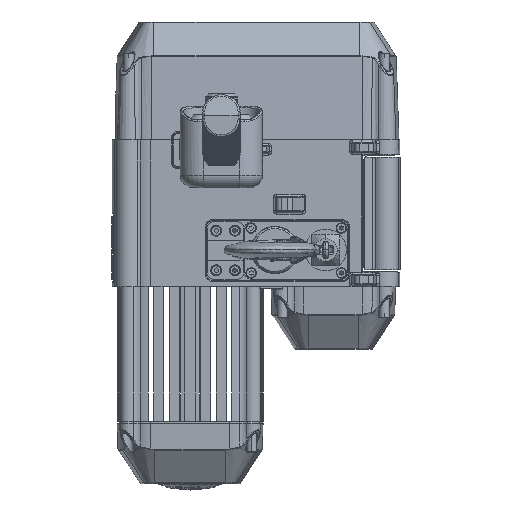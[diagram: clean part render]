
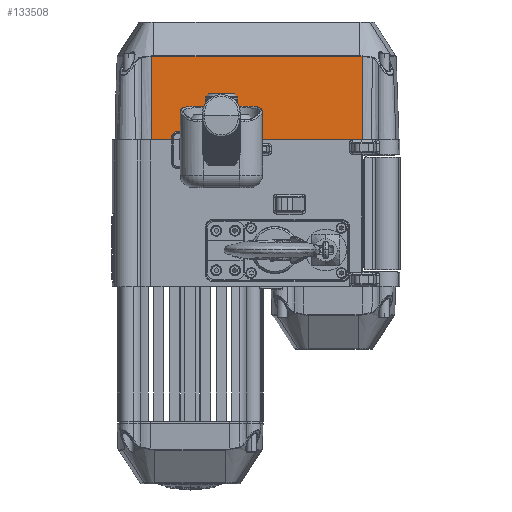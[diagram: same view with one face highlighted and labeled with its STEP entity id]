
A CAD part, front view. The second image highlights one B-rep face of the part: STEP entity #133508.
In plain terms, the highlighted planar face has unit normal (0, -0.999, 0.035).
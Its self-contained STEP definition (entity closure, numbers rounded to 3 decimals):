
#46259 = PLANE ( 'NONE',  #144892 ) ;
#46260 = CARTESIAN_POINT ( 'NONE',  ( -37.2, -73., 103.5 ) ) ;
#46261 = DIRECTION ( 'NONE',  ( 0., -0.999, 0.035 ) ) ;
#46262 = DIRECTION ( 'NONE',  ( 0., -0.035, -0.999 ) ) ;
#48190 = DIRECTION ( 'NONE',  ( -1., 0., 0. ) ) ;
#48202 = CARTESIAN_POINT ( 'NONE',  ( -37.2, -72.93, 105.5 ) ) ;
#48223 = CARTESIAN_POINT ( 'NONE',  ( -37.2, -73., 103.5 ) ) ;
#48226 = DIRECTION ( 'NONE',  ( 0., -0.035, -0.999 ) ) ;
#48231 = DIRECTION ( 'NONE',  ( -1., 0., 0. ) ) ;
#48234 = DIRECTION ( 'NONE',  ( 0., -0.035, -0.999 ) ) ;
#48237 = CARTESIAN_POINT ( 'NONE',  ( -37.2, -72.93, 105.5 ) ) ;
#48241 = CARTESIAN_POINT ( 'NONE',  ( 164.8, -73., 103.5 ) ) ;
#48253 = CARTESIAN_POINT ( 'NONE',  ( 42.3, -72.86, 107.498 ) ) ;
#48258 = DIRECTION ( 'NONE',  ( 0., 0.999, -0.035 ) ) ;
#48261 = DIRECTION ( 'NONE',  ( 0., -0.035, -0.999 ) ) ;
#48295 = DIRECTION ( 'NONE',  ( 0., 0.999, -0.035 ) ) ;
#48299 = CARTESIAN_POINT ( 'NONE',  ( -11.7, -72.86, 107.498 ) ) ;
#48315 = DIRECTION ( 'NONE',  ( 0., -0.035, -0.999 ) ) ;
#48329 = DIRECTION ( 'NONE',  ( 1., 0., 0. ) ) ;
#48335 = CARTESIAN_POINT ( 'NONE',  ( 42.3, -72.651, 113.494 ) ) ;
#48426 = DIRECTION ( 'NONE',  ( 0., -0.035, -0.999 ) ) ;
#48450 = CARTESIAN_POINT ( 'NONE',  ( 48.3, -72.93, 105.5 ) ) ;
#48638 = DIRECTION ( 'NONE',  ( 0., 0.035, 0.999 ) ) ;
#48643 = CARTESIAN_POINT ( 'NONE',  ( -17.7, -72.86, 107.498 ) ) ;
#48783 = CARTESIAN_POINT ( 'NONE',  ( 164.8, -70.136, 185.505 ) ) ;
#48953 = CARTESIAN_POINT ( 'NONE',  ( 163.965, -70.132, 185.618 ) ) ;
#48957 = CARTESIAN_POINT ( 'NONE',  ( 163.127, -70.13, 185.675 ) ) ;
#49035 = CARTESIAN_POINT ( 'NONE',  ( 162.284, -70.13, 185.675 ) ) ;
#50006 = CARTESIAN_POINT ( 'NONE',  ( -34.684, -70.13, 185.675 ) ) ;
#50010 = DIRECTION ( 'NONE',  ( -1., 0., 0. ) ) ;
#51011 = CARTESIAN_POINT ( 'NONE',  ( -34.684, -70.13, 185.675 ) ) ;
#51019 = CARTESIAN_POINT ( 'NONE',  ( -37.2, -70.136, 185.505 ) ) ;
#51022 = CARTESIAN_POINT ( 'NONE',  ( -36.365, -70.132, 185.618 ) ) ;
#51030 = CARTESIAN_POINT ( 'NONE',  ( -35.527, -70.13, 185.675 ) ) ;
#61465 = EDGE_CURVE ( 'NONE', #89876, #89887, #82692, .T. ) ;
#61529 = EDGE_CURVE ( 'NONE', #89944, #89876, #168547, .T. ) ;
#61540 = EDGE_CURVE ( 'NONE', #89955, #89935, #82712, .T. ) ;
#61546 = EDGE_CURVE ( 'NONE', #89955, #89940, #82714, .T. ) ;
#61554 = EDGE_CURVE ( 'NONE', #89881, #89940, #82718, .T. ) ;
#61557 = EDGE_CURVE ( 'NONE', #89930, #89946, #97193, .T. ) ;
#61561 = EDGE_CURVE ( 'NONE', #89946, #89947, #82720, .T. ) ;
#61564 = EDGE_CURVE ( 'NONE', #89937, #89947, #82722, .T. ) ;
#61569 = EDGE_CURVE ( 'NONE', #89944, #89937, #82724, .T. ) ;
#61584 = EDGE_CURVE ( 'NONE', #89935, #89927, #97326, .T. ) ;
#61587 = EDGE_CURVE ( 'NONE', #89927, #89930, #82726, .T. ) ;
#61707 = EDGE_CURVE ( 'NONE', #89887, #89881, #168606, .T. ) ;
#81764 = ORIENTED_EDGE ( 'NONE', *, *, #61540, .T. ) ;
#81766 = ORIENTED_EDGE ( 'NONE', *, *, #61554, .T. ) ;
#81768 = ORIENTED_EDGE ( 'NONE', *, *, #61465, .T. ) ;
#81887 = ORIENTED_EDGE ( 'NONE', *, *, #61587, .T. ) ;
#81937 = ORIENTED_EDGE ( 'NONE', *, *, #61584, .T. ) ;
#81939 = ORIENTED_EDGE ( 'NONE', *, *, #61707, .T. ) ;
#81946 = ORIENTED_EDGE ( 'NONE', *, *, #61564, .F. ) ;
#81947 = ORIENTED_EDGE ( 'NONE', *, *, #61561, .T. ) ;
#81948 = ORIENTED_EDGE ( 'NONE', *, *, #61569, .F. ) ;
#81950 = ORIENTED_EDGE ( 'NONE', *, *, #61529, .T. ) ;
#81963 = ORIENTED_EDGE ( 'NONE', *, *, #61557, .T. ) ;
#81964 = ORIENTED_EDGE ( 'NONE', *, *, #61546, .F. ) ;
#82692 = LINE ( 'NONE', #50006, #97305 ) ;
#82712 = LINE ( 'NONE', #48643, #97192 ) ;
#82714 = LINE ( 'NONE', #48202, #97194 ) ;
#82718 = LINE ( 'NONE', #48223, #97196 ) ;
#82720 = LINE ( 'NONE', #48450, #97197 ) ;
#82722 = LINE ( 'NONE', #48237, #97198 ) ;
#82724 = LINE ( 'NONE', #48241, #97323 ) ;
#82726 = LINE ( 'NONE', #48335, #97327 ) ;
#89876 = VERTEX_POINT ( 'NONE', #111467 ) ;
#89881 = VERTEX_POINT ( 'NONE', #111472 ) ;
#89887 = VERTEX_POINT ( 'NONE', #111478 ) ;
#89927 = VERTEX_POINT ( 'NONE', #111518 ) ;
#89930 = VERTEX_POINT ( 'NONE', #111521 ) ;
#89935 = VERTEX_POINT ( 'NONE', #111526 ) ;
#89937 = VERTEX_POINT ( 'NONE', #111528 ) ;
#89940 = VERTEX_POINT ( 'NONE', #111531 ) ;
#89944 = VERTEX_POINT ( 'NONE', #111535 ) ;
#89946 = VERTEX_POINT ( 'NONE', #111537 ) ;
#89947 = VERTEX_POINT ( 'NONE', #111538 ) ;
#89955 = VERTEX_POINT ( 'NONE', #111546 ) ;
#97192 = VECTOR ( 'NONE', #48638, 1000. ) ;
#97193 = CIRCLE ( 'NONE', #97322, 6. ) ;
#97194 = VECTOR ( 'NONE', #48190, 1000. ) ;
#97196 = VECTOR ( 'NONE', #48426, 1000. ) ;
#97197 = VECTOR ( 'NONE', #48226, 1000. ) ;
#97198 = VECTOR ( 'NONE', #48231, 1000. ) ;
#97201 = AXIS2_PLACEMENT_3D ( 'NONE', #48299, #48295, #48315 ) ;
#97305 = VECTOR ( 'NONE', #50010, 1000. ) ;
#97322 = AXIS2_PLACEMENT_3D ( 'NONE', #48253, #48258, #48261 ) ;
#97323 = VECTOR ( 'NONE', #48234, 1000. ) ;
#97326 = CIRCLE ( 'NONE', #97201, 6. ) ;
#97327 = VECTOR ( 'NONE', #48329, 1000. ) ;
#111467 = CARTESIAN_POINT ( 'NONE',  ( 162.284, -70.13, 185.675 ) ) ;
#111472 = CARTESIAN_POINT ( 'NONE',  ( -37.2, -70.136, 185.505 ) ) ;
#111478 = CARTESIAN_POINT ( 'NONE',  ( -34.684, -70.13, 185.675 ) ) ;
#111518 = CARTESIAN_POINT ( 'NONE',  ( -11.7, -72.651, 113.494 ) ) ;
#111521 = CARTESIAN_POINT ( 'NONE',  ( 42.3, -72.651, 113.494 ) ) ;
#111526 = CARTESIAN_POINT ( 'NONE',  ( -17.7, -72.86, 107.498 ) ) ;
#111528 = CARTESIAN_POINT ( 'NONE',  ( 164.8, -72.93, 105.5 ) ) ;
#111531 = CARTESIAN_POINT ( 'NONE',  ( -37.2, -72.93, 105.5 ) ) ;
#111535 = CARTESIAN_POINT ( 'NONE',  ( 164.8, -70.136, 185.505 ) ) ;
#111537 = CARTESIAN_POINT ( 'NONE',  ( 48.3, -72.86, 107.498 ) ) ;
#111538 = CARTESIAN_POINT ( 'NONE',  ( 48.3, -72.93, 105.5 ) ) ;
#111546 = CARTESIAN_POINT ( 'NONE',  ( -17.7, -72.93, 105.5 ) ) ;
#115689 = FACE_OUTER_BOUND ( 'NONE', #157499, .T. ) ;
#133508 = ADVANCED_FACE ( 'NONE', ( #115689 ), #46259, .T. ) ;
#144892 = AXIS2_PLACEMENT_3D ( 'NONE', #46260, #46261, #46262 ) ;
#157499 = EDGE_LOOP ( 'NONE', ( #81963, #81947, #81946, #81948, #81950, #81768, #81939, #81766, #81964, #81764, #81937, #81887 ) ) ;
#168547 = B_SPLINE_CURVE_WITH_KNOTS ( 'NONE', 3,
 ( #48783, #48953, #48957, #49035 ),
 .UNSPECIFIED., .F., .F.,
 ( 4, 4 ),
 ( 0., 0.003 ),
 .UNSPECIFIED. ) ;
#168606 = B_SPLINE_CURVE_WITH_KNOTS ( 'NONE', 3,
 ( #51011, #51030, #51022, #51019 ),
 .UNSPECIFIED., .F., .F.,
 ( 4, 4 ),
 ( 0., 0.003 ),
 .UNSPECIFIED. ) ;
